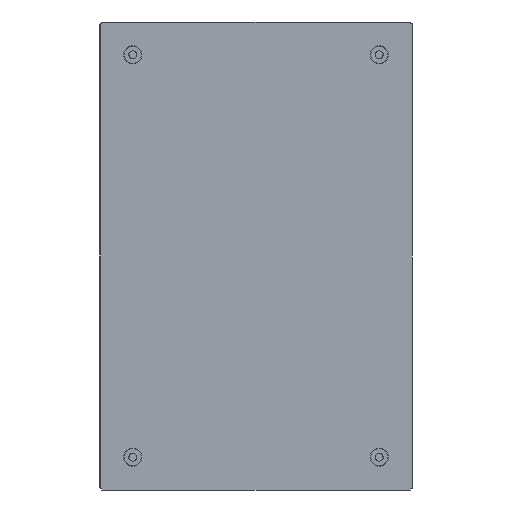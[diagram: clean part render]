
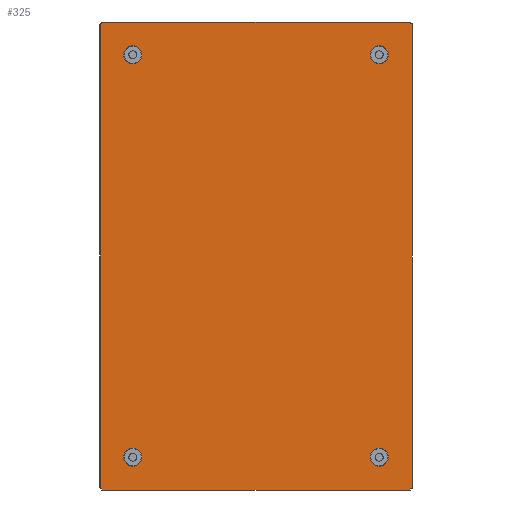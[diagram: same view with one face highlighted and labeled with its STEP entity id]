
A CAD part, front view. The second image highlights one B-rep face of the part: STEP entity #325.
In plain terms, the highlighted planar face has unit normal (0, -1, 0).
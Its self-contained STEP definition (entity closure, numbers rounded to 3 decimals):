
#325 = ADVANCED_FACE('',(#326,#424,#444,#455,#475),#486,.T.);
#326 = FACE_BOUND('',#327,.T.);
#327 = EDGE_LOOP('',(#328,#338,#346,#354,#362,#370,#378,#386,#394,#402,
    #410,#418));
#328 = ORIENTED_EDGE('',*,*,#329,.F.);
#329 = EDGE_CURVE('',#330,#332,#334,.T.);
#330 = VERTEX_POINT('',#331);
#331 = CARTESIAN_POINT('',(-100.,-1.2,148.729));
#332 = VERTEX_POINT('',#333);
#333 = CARTESIAN_POINT('',(-98.729,-1.2,148.729));
#334 = LINE('',#335,#336);
#335 = CARTESIAN_POINT('',(0.,-1.2,148.729));
#336 = VECTOR('',#337,1.);
#337 = DIRECTION('',(1.,-0.,0.));
#338 = ORIENTED_EDGE('',*,*,#339,.T.);
#339 = EDGE_CURVE('',#330,#340,#342,.T.);
#340 = VERTEX_POINT('',#341);
#341 = CARTESIAN_POINT('',(-100.,-1.2,-148.729));
#342 = LINE('',#343,#344);
#343 = CARTESIAN_POINT('',(-100.,-1.2,1650.));
#344 = VECTOR('',#345,1.);
#345 = DIRECTION('',(0.,0.,-1.));
#346 = ORIENTED_EDGE('',*,*,#347,.T.);
#347 = EDGE_CURVE('',#340,#348,#350,.T.);
#348 = VERTEX_POINT('',#349);
#349 = CARTESIAN_POINT('',(-98.729,-1.2,-148.729));
#350 = LINE('',#351,#352);
#351 = CARTESIAN_POINT('',(-100.,-1.2,-148.729));
#352 = VECTOR('',#353,1.);
#353 = DIRECTION('',(1.,0.,0.));
#354 = ORIENTED_EDGE('',*,*,#355,.F.);
#355 = EDGE_CURVE('',#356,#348,#358,.T.);
#356 = VERTEX_POINT('',#357);
#357 = CARTESIAN_POINT('',(-98.729,-1.2,-150.));
#358 = LINE('',#359,#360);
#359 = CARTESIAN_POINT('',(-98.729,-1.2,0.));
#360 = VECTOR('',#361,1.);
#361 = DIRECTION('',(0.,-0.,1.));
#362 = ORIENTED_EDGE('',*,*,#363,.T.);
#363 = EDGE_CURVE('',#356,#364,#366,.T.);
#364 = VERTEX_POINT('',#365);
#365 = CARTESIAN_POINT('',(98.729,-1.2,-150.));
#366 = LINE('',#367,#368);
#367 = CARTESIAN_POINT('',(-1600.,-1.2,-150.));
#368 = VECTOR('',#369,1.);
#369 = DIRECTION('',(1.,0.,0.));
#370 = ORIENTED_EDGE('',*,*,#371,.T.);
#371 = EDGE_CURVE('',#364,#372,#374,.T.);
#372 = VERTEX_POINT('',#373);
#373 = CARTESIAN_POINT('',(98.729,-1.2,-148.729));
#374 = LINE('',#375,#376);
#375 = CARTESIAN_POINT('',(98.729,-1.2,-150.));
#376 = VECTOR('',#377,1.);
#377 = DIRECTION('',(0.,0.,1.));
#378 = ORIENTED_EDGE('',*,*,#379,.F.);
#379 = EDGE_CURVE('',#380,#372,#382,.T.);
#380 = VERTEX_POINT('',#381);
#381 = CARTESIAN_POINT('',(100.,-1.2,-148.729));
#382 = LINE('',#383,#384);
#383 = CARTESIAN_POINT('',(0.,-1.2,-148.729));
#384 = VECTOR('',#385,1.);
#385 = DIRECTION('',(-1.,-0.,-0.));
#386 = ORIENTED_EDGE('',*,*,#387,.T.);
#387 = EDGE_CURVE('',#380,#388,#390,.T.);
#388 = VERTEX_POINT('',#389);
#389 = CARTESIAN_POINT('',(100.,-1.2,148.729));
#390 = LINE('',#391,#392);
#391 = CARTESIAN_POINT('',(100.,-1.2,-1650.));
#392 = VECTOR('',#393,1.);
#393 = DIRECTION('',(0.,0.,1.));
#394 = ORIENTED_EDGE('',*,*,#395,.T.);
#395 = EDGE_CURVE('',#388,#396,#398,.T.);
#396 = VERTEX_POINT('',#397);
#397 = CARTESIAN_POINT('',(98.729,-1.2,148.729));
#398 = LINE('',#399,#400);
#399 = CARTESIAN_POINT('',(100.,-1.2,148.729));
#400 = VECTOR('',#401,1.);
#401 = DIRECTION('',(-1.,0.,0.));
#402 = ORIENTED_EDGE('',*,*,#403,.F.);
#403 = EDGE_CURVE('',#404,#396,#406,.T.);
#404 = VERTEX_POINT('',#405);
#405 = CARTESIAN_POINT('',(98.729,-1.2,150.));
#406 = LINE('',#407,#408);
#407 = CARTESIAN_POINT('',(98.729,-1.2,0.));
#408 = VECTOR('',#409,1.);
#409 = DIRECTION('',(0.,-0.,-1.));
#410 = ORIENTED_EDGE('',*,*,#411,.T.);
#411 = EDGE_CURVE('',#404,#412,#414,.T.);
#412 = VERTEX_POINT('',#413);
#413 = CARTESIAN_POINT('',(-98.729,-1.2,150.));
#414 = LINE('',#415,#416);
#415 = CARTESIAN_POINT('',(1600.,-1.2,150.));
#416 = VECTOR('',#417,1.);
#417 = DIRECTION('',(-1.,0.,0.));
#418 = ORIENTED_EDGE('',*,*,#419,.T.);
#419 = EDGE_CURVE('',#412,#332,#420,.T.);
#420 = LINE('',#421,#422);
#421 = CARTESIAN_POINT('',(-98.729,-1.2,150.));
#422 = VECTOR('',#423,1.);
#423 = DIRECTION('',(0.,0.,-1.));
#424 = FACE_BOUND('',#425,.T.);
#425 = EDGE_LOOP('',(#426,#437));
#426 = ORIENTED_EDGE('',*,*,#427,.F.);
#427 = EDGE_CURVE('',#428,#430,#432,.T.);
#428 = VERTEX_POINT('',#429);
#429 = CARTESIAN_POINT('',(-79.,-1.2,-125.));
#430 = VERTEX_POINT('',#431);
#431 = CARTESIAN_POINT('',(-79.,-1.2,-133.));
#432 = CIRCLE('',#433,4.);
#433 = AXIS2_PLACEMENT_3D('',#434,#435,#436);
#434 = CARTESIAN_POINT('',(-79.,-1.2,-129.));
#435 = DIRECTION('',(0.,-1.,0.));
#436 = DIRECTION('',(0.,0.,1.));
#437 = ORIENTED_EDGE('',*,*,#438,.F.);
#438 = EDGE_CURVE('',#430,#428,#439,.T.);
#439 = CIRCLE('',#440,4.);
#440 = AXIS2_PLACEMENT_3D('',#441,#442,#443);
#441 = CARTESIAN_POINT('',(-79.,-1.2,-129.));
#442 = DIRECTION('',(0.,-1.,0.));
#443 = DIRECTION('',(0.,0.,1.));
#444 = FACE_BOUND('',#445,.T.);
#445 = EDGE_LOOP('',(#446));
#446 = ORIENTED_EDGE('',*,*,#447,.F.);
#447 = EDGE_CURVE('',#448,#448,#450,.T.);
#448 = VERTEX_POINT('',#449);
#449 = CARTESIAN_POINT('',(79.,-1.2,-133.));
#450 = CIRCLE('',#451,4.);
#451 = AXIS2_PLACEMENT_3D('',#452,#453,#454);
#452 = CARTESIAN_POINT('',(79.,-1.2,-129.));
#453 = DIRECTION('',(0.,-1.,0.));
#454 = DIRECTION('',(0.,0.,-1.));
#455 = FACE_BOUND('',#456,.T.);
#456 = EDGE_LOOP('',(#457,#468));
#457 = ORIENTED_EDGE('',*,*,#458,.F.);
#458 = EDGE_CURVE('',#459,#461,#463,.T.);
#459 = VERTEX_POINT('',#460);
#460 = CARTESIAN_POINT('',(79.,-1.2,133.));
#461 = VERTEX_POINT('',#462);
#462 = CARTESIAN_POINT('',(79.,-1.2,125.));
#463 = CIRCLE('',#464,4.);
#464 = AXIS2_PLACEMENT_3D('',#465,#466,#467);
#465 = CARTESIAN_POINT('',(79.,-1.2,129.));
#466 = DIRECTION('',(0.,-1.,0.));
#467 = DIRECTION('',(0.,0.,1.));
#468 = ORIENTED_EDGE('',*,*,#469,.F.);
#469 = EDGE_CURVE('',#461,#459,#470,.T.);
#470 = CIRCLE('',#471,4.);
#471 = AXIS2_PLACEMENT_3D('',#472,#473,#474);
#472 = CARTESIAN_POINT('',(79.,-1.2,129.));
#473 = DIRECTION('',(0.,-1.,0.));
#474 = DIRECTION('',(0.,0.,1.));
#475 = FACE_BOUND('',#476,.T.);
#476 = EDGE_LOOP('',(#477));
#477 = ORIENTED_EDGE('',*,*,#478,.F.);
#478 = EDGE_CURVE('',#479,#479,#481,.T.);
#479 = VERTEX_POINT('',#480);
#480 = CARTESIAN_POINT('',(-79.,-1.2,125.));
#481 = CIRCLE('',#482,4.);
#482 = AXIS2_PLACEMENT_3D('',#483,#484,#485);
#483 = CARTESIAN_POINT('',(-79.,-1.2,129.));
#484 = DIRECTION('',(0.,-1.,0.));
#485 = DIRECTION('',(0.,0.,-1.));
#486 = PLANE('',#487);
#487 = AXIS2_PLACEMENT_3D('',#488,#489,#490);
#488 = CARTESIAN_POINT('',(0.,-1.2,0.));
#489 = DIRECTION('',(0.,-1.,0.));
#490 = DIRECTION('',(0.,-0.,-1.));
